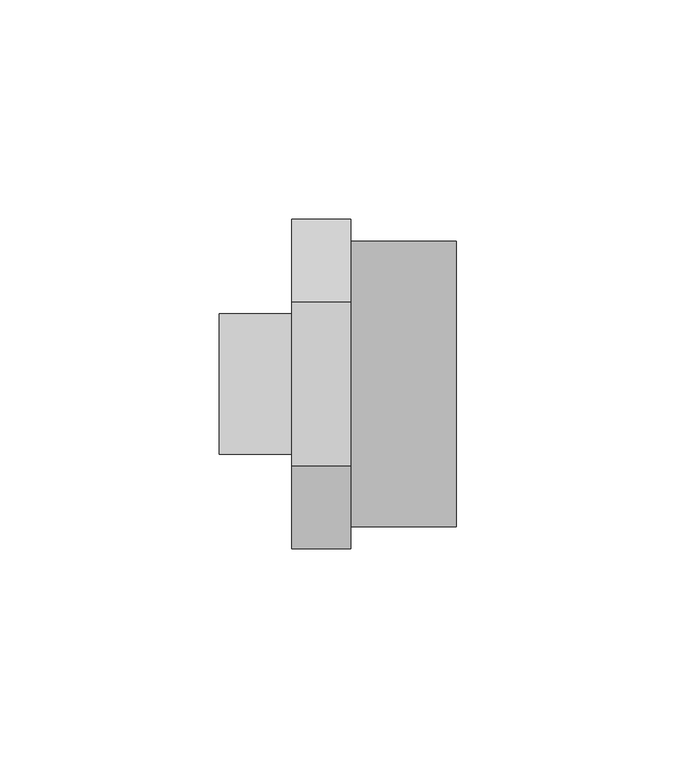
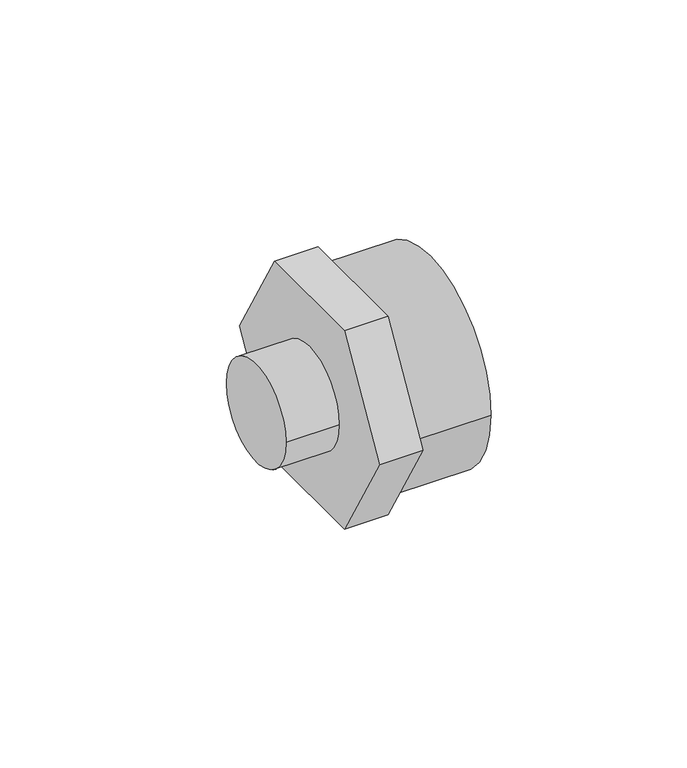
"""IFC4 building model written with IfcOpenShell, lengths in millimetres: pipe fitting geometry."""

from ifc_helpers import new_model, si_unit, point, frame, origin, origin_2d, place, context, project, spatial, polyline, circle_curve, trimmed, segment, composite_curve, outline, extrude, source, transform, mapped, element, save


def pipe_fitting_d7434a6e(model_context):
    return source(origin(), model_context, "Body", "SweptSolid", [
        extrude(outline(composite_curve([segment(trimmed(circle_curve(origin_2d(), 16.0), [point((16.0, 0.0))], [point((-16.0, 0.0))], False, "CARTESIAN"), True, "CONTINUOUS"), segment(trimmed(circle_curve(origin_2d(), 16.0), [point((-16.0, 0.0))], [point((16.0, 0.0))], False, "CARTESIAN"), True, "CONTINUOUS")], self_intersect=False)), frame((0.0, 0.0, 0.0), z_axis=(1.0, 0.0, 0.0), x_axis=(0.0, 1.0, 0.0)), (0.0, 0.0, 1.0), 16.5),
        extrude(outline(polyline([(-18.7638837, 32.5), (18.7638837, 32.5), (37.5277675, 0.0), (18.7638837, -32.5), (-18.7638837, -32.5), (-37.5277675, 0.0), (-18.7638837, 32.5)])), frame((16.5, 0.0, 0.0), z_axis=(1.0, 0.0, 0.0), x_axis=(0.0, 1.0, 0.0)), (0.0, 0.0, 1.0), 13.5),
        extrude(outline(composite_curve([segment(trimmed(circle_curve(origin_2d(), 32.5), [point((-32.5, 0.0))], [point((32.5, 0.0))], False, "CARTESIAN"), True, "CONTINUOUS"), segment(trimmed(circle_curve(origin_2d(), 32.5), [point((32.5, 0.0))], [point((-32.5, 0.0))], False, "CARTESIAN"), True, "CONTINUOUS")], self_intersect=False)), frame((30.0, 0.0, 0.0), z_axis=(1.0, 0.0, 0.0), x_axis=(0.0, 1.0, 0.0)), (0.0, 0.0, 1.0), 24.0),
    ])


if __name__ == "__main__":
    model = new_model("IFC4")
    model_context = context("Model", 3, world=origin())
    ifc_project = project(units=[si_unit("LENGTHUNIT", "METRE", prefix="MILLI")], contexts=[model_context])
    site = spatial("IfcSite", under=ifc_project)
    building = spatial("IfcBuilding", under=site)
    placement = place(None, origin())
    pipe_fitting_shape = pipe_fitting_d7434a6e(model_context)
    element("IfcPipeFitting", 1, at=placement, inside=building, context=model_context, shape_type="MappedRepresentation", body=[
        mapped(pipe_fitting_shape, transform((0.0, 0.0, 0.0), x_axis=(1.0, 0.0, 0.0), y_axis=(0.0, 1.0, 0.0), z_axis=(0.0, 0.0, 1.0))),
    ])
    save(model, "model.ifc")
